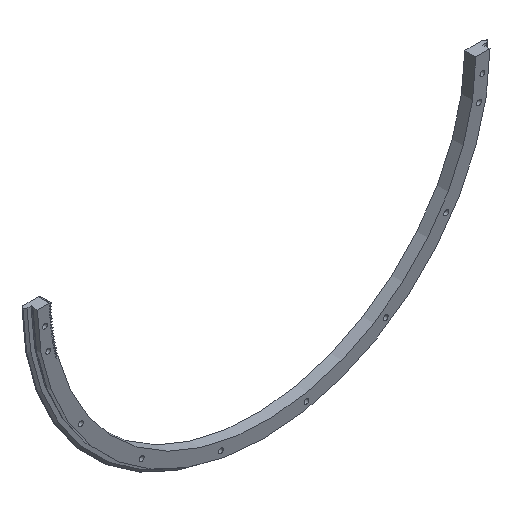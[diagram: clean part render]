
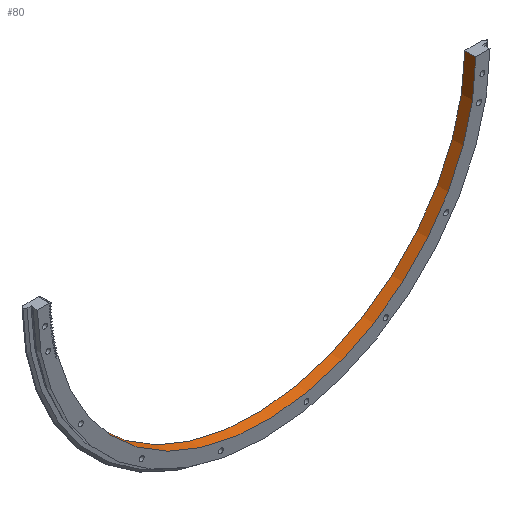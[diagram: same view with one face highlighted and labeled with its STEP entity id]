
A CAD part, isometric view. The second image highlights one B-rep face of the part: STEP entity #80.
In plain terms, the highlighted cylindrical face has radius 298.75 mm (diameter 597.5 mm), a partial arc.
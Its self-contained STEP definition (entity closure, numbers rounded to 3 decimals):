
#80 = ADVANCED_FACE( '', ( #215 ), #216, .F. );
#215 = FACE_OUTER_BOUND( '', #504, .T. );
#216 = CYLINDRICAL_SURFACE( '', #505, 298.75 );
#504 = EDGE_LOOP( '', ( #901, #902, #903, #904 ) );
#505 = AXIS2_PLACEMENT_3D( '', #905, #906, #907 );
#901 = ORIENTED_EDGE( '', *, *, #1766, .F. );
#902 = ORIENTED_EDGE( '', *, *, #1841, .T. );
#903 = ORIENTED_EDGE( '', *, *, #1842, .T. );
#904 = ORIENTED_EDGE( '', *, *, #1742, .T. );
#905 = CARTESIAN_POINT( '', ( 0., 0., 0. ) );
#906 = DIRECTION( '', ( 0., 1., 0. ) );
#907 = DIRECTION( '', ( 0., 0., -1. ) );
#1742 = EDGE_CURVE( '', #2036, #2052, #2054, .F. );
#1766 = EDGE_CURVE( '', #2099, #2052, #2101, .T. );
#1841 = EDGE_CURVE( '', #2099, #2247, #2248, .T. );
#1842 = EDGE_CURVE( '', #2247, #2036, #2249, .T. );
#2036 = VERTEX_POINT( '', #2551 );
#2052 = VERTEX_POINT( '', #2587 );
#2054 = LINE( '', #2590, #2591 );
#2099 = VERTEX_POINT( '', #2646 );
#2101 = CIRCLE( '', #2649, 298.75 );
#2247 = VERTEX_POINT( '', #2831 );
#2248 = LINE( '', #2832, #2833 );
#2249 = CIRCLE( '', #2834, 298.75 );
#2551 = CARTESIAN_POINT( '', ( 298.74, 0., -2.5 ) );
#2587 = CARTESIAN_POINT( '', ( 298.74, 15.5, -2.5 ) );
#2590 = CARTESIAN_POINT( '', ( 298.74, 0., -2.5 ) );
#2591 = VECTOR( '', #3270, 1000. );
#2646 = CARTESIAN_POINT( '', ( -289.183, 15.5, -75. ) );
#2649 = AXIS2_PLACEMENT_3D( '', #3318, #3319, #3320 );
#2831 = CARTESIAN_POINT( '', ( -289.183, 0., -75. ) );
#2832 = CARTESIAN_POINT( '', ( -289.183, 0., -75. ) );
#2833 = VECTOR( '', #3471, 1000. );
#2834 = AXIS2_PLACEMENT_3D( '', #3472, #3473, #3474 );
#3270 = DIRECTION( '', ( 0., -1., 0. ) );
#3318 = CARTESIAN_POINT( '', ( 0., 15.5, 0. ) );
#3319 = DIRECTION( '', ( 0., -1., 0. ) );
#3320 = DIRECTION( '', ( 0., 0., -1. ) );
#3471 = DIRECTION( '', ( 0., -1., 0. ) );
#3472 = CARTESIAN_POINT( '', ( 0., 0., 0. ) );
#3473 = DIRECTION( '', ( 0., -1., 0. ) );
#3474 = DIRECTION( '', ( 0., 0., -1. ) );
